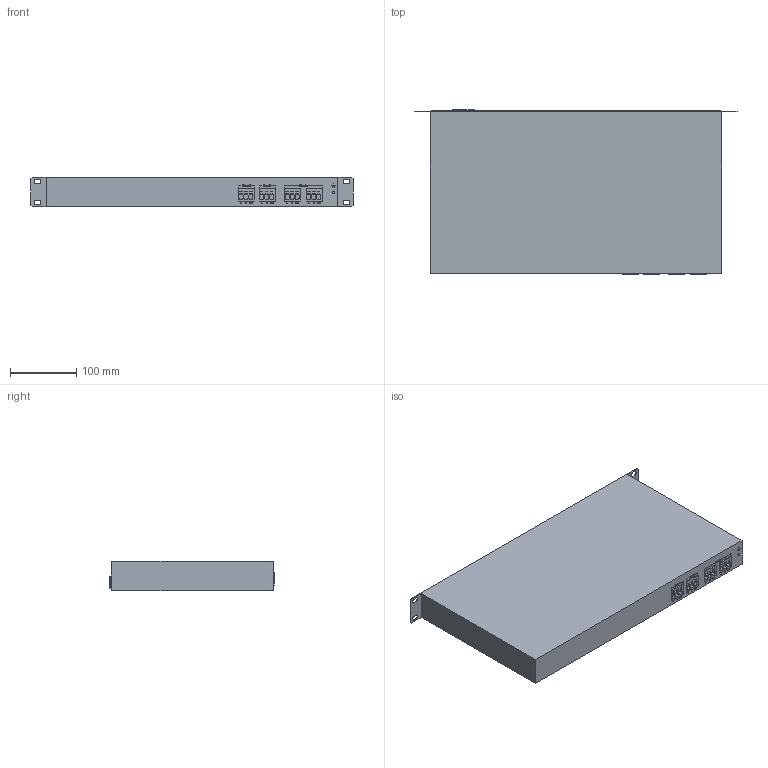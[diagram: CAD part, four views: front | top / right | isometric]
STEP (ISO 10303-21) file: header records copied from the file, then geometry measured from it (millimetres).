
FILE_DESCRIPTION(('STEP AP214'), '1');
FILE_NAME('ATS-1206', '', ('UNSPECIFIED'), ('UNSPECIFIED'), 'ASCON STEP Converter 1.6', 'ASCON Math Kernel', '');
FILE_SCHEMA(('AUTOMOTIVE_DESIGN { 1 0 10303 214 3 1 1}'));
Length unit declared in the file: millimetre
Assembly tree (2 placements, depth 2):
  (unnamed)
    (unnamed)
    (unnamed)
Bounding box: 486 x 248 x 43.9 mm (x, y, z)
Volume: 4726992.2 mm3; surface area: 325765.6 mm2
Topology: 63 solids, 63 shells, 2991 faces, 8034 edges, 5356 vertices
Faces by surface type: plane 1671, extrusion 1037, cylinder 259, bspline 24
Full cylindrical faces by diameter (mm): 2 x2, 3.3 x1, 4 x6
Entity records: 127455 total; most frequent: CARTESIAN_POINT 31606, ORIENTED_EDGE 16050, DIRECTION 11332, EDGE_CURVE 8025, VECTOR 6422, LINE 5385, VERTEX_POINT 5356, EDGE_LOOP 3265
